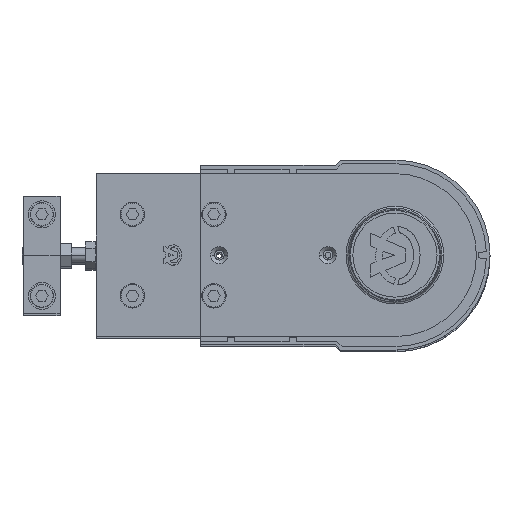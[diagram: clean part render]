
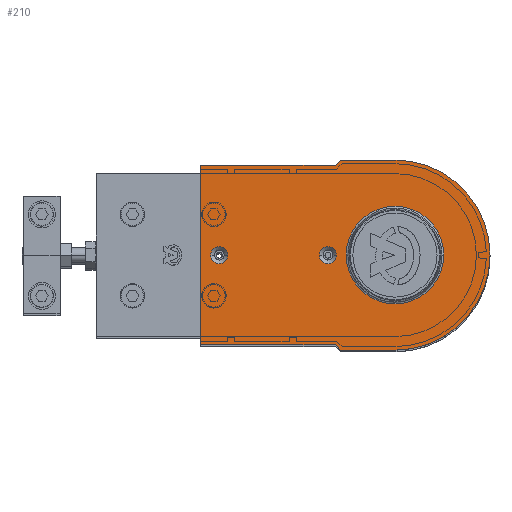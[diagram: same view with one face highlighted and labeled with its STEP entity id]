
A CAD part, top view. The second image highlights one B-rep face of the part: STEP entity #210.
In plain terms, the highlighted planar face has unit normal (0, 0, 1).
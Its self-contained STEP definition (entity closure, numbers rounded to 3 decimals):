
#210 = ADVANCED_FACE ( 'NONE', ( #2787, #10954, #479, #16009 ), #3434, .T. ) ;
#250 = CARTESIAN_POINT ( 'NONE',  ( 37., 0., 0. ) ) ;
#272 = AXIS2_PLACEMENT_3D ( 'NONE', #12017, #18780, #17198 ) ;
#479 = FACE_BOUND ( 'NONE', #1587, .T. ) ;
#483 = EDGE_CURVE ( 'NONE', #4652, #11498, #15740, .T. ) ;
#650 = AXIS2_PLACEMENT_3D ( 'NONE', #801, #12271, #2495 ) ;
#681 = EDGE_CURVE ( 'NONE', #16655, #18034, #20118, .T. ) ;
#801 = CARTESIAN_POINT ( 'NONE',  ( 0., 0., 0. ) ) ;
#1273 = CARTESIAN_POINT ( 'NONE',  ( 30., 52.5, 0. ) ) ;
#1370 = DIRECTION ( 'NONE',  ( 1., 0., 0. ) ) ;
#1437 = VERTEX_POINT ( 'NONE', #8778 ) ;
#1534 = CIRCLE ( 'NONE', #9365, 4.7 ) ;
#1566 = CARTESIAN_POINT ( 'NONE',  ( 107.5, -49.5, 0. ) ) ;
#1586 = CARTESIAN_POINT ( 'NONE',  ( 97., 0., 0. ) ) ;
#1587 = EDGE_LOOP ( 'NONE', ( #4937, #1981 ) ) ;
#1592 = VECTOR ( 'NONE', #2641, 1000. ) ;
#1751 = VERTEX_POINT ( 'NONE', #1566 ) ;
#1801 = DIRECTION ( 'NONE',  ( 1., 0., 0. ) ) ;
#1816 = VERTEX_POINT ( 'NONE', #4974 ) ;
#1981 = ORIENTED_EDGE ( 'NONE', *, *, #19530, .F. ) ;
#1991 = CARTESIAN_POINT ( 'NONE',  ( 33., -49.5, 0. ) ) ;
#2139 = LINE ( 'NONE', #11264, #4446 ) ;
#2165 = CIRCLE ( 'NONE', #17746, 4.7 ) ;
#2491 = DIRECTION ( 'NONE',  ( -1., 0., 0. ) ) ;
#2495 = DIRECTION ( 'NONE',  ( 1., 0., 0. ) ) ;
#2616 = EDGE_LOOP ( 'NONE', ( #16826, #12800 ) ) ;
#2641 = DIRECTION ( 'NONE',  ( 0., 1., 0. ) ) ;
#2761 = EDGE_CURVE ( 'NONE', #18034, #16655, #10351, .T. ) ;
#2787 = FACE_BOUND ( 'NONE', #3416, .T. ) ;
#3217 = CARTESIAN_POINT ( 'NONE',  ( 0., 0., 0. ) ) ;
#3416 = EDGE_LOOP ( 'NONE', ( #16852, #12238 ) ) ;
#3434 = PLANE ( 'NONE',  #9661 ) ;
#4446 = VECTOR ( 'NONE', #12843, 1000. ) ;
#4576 = DIRECTION ( 'NONE',  ( 1., 0., 0. ) ) ;
#4652 = VERTEX_POINT ( 'NONE', #7378 ) ;
#4937 = ORIENTED_EDGE ( 'NONE', *, *, #19110, .F. ) ;
#4974 = CARTESIAN_POINT ( 'NONE',  ( 33., 49.5, 0. ) ) ;
#5267 = LINE ( 'NONE', #6006, #14947 ) ;
#5295 = CARTESIAN_POINT ( 'NONE',  ( 97., 0., 0. ) ) ;
#5345 = EDGE_CURVE ( 'NONE', #1751, #7740, #11521, .T. ) ;
#6006 = CARTESIAN_POINT ( 'NONE',  ( 107.5, 49.5, 0. ) ) ;
#6261 = CARTESIAN_POINT ( 'NONE',  ( 33., 49.5, 0. ) ) ;
#6297 = EDGE_CURVE ( 'NONE', #16571, #19619, #13304, .T. ) ;
#6431 = CARTESIAN_POINT ( 'NONE',  ( 30., -52.5, 0. ) ) ;
#6874 = DIRECTION ( 'NONE',  ( 0., 0., 1. ) ) ;
#6907 = ORIENTED_EDGE ( 'NONE', *, *, #11801, .T. ) ;
#6987 = CARTESIAN_POINT ( 'NONE',  ( 107.5, -49.5, 0. ) ) ;
#7278 = CARTESIAN_POINT ( 'NONE',  ( 37., 0., 0. ) ) ;
#7378 = CARTESIAN_POINT ( 'NONE',  ( 0., 52.5, 0. ) ) ;
#7446 = EDGE_LOOP ( 'NONE', ( #15584, #18385, #14621, #9539, #9950, #6907, #9942, #20315 ) ) ;
#7522 = EDGE_CURVE ( 'NONE', #19619, #16571, #1534, .T. ) ;
#7740 = VERTEX_POINT ( 'NONE', #16214 ) ;
#8062 = DIRECTION ( 'NONE',  ( 1., 0., 0. ) ) ;
#8095 = DIRECTION ( 'NONE',  ( -0.707, 0.707, 0. ) ) ;
#8246 = DIRECTION ( 'NONE',  ( 0., 0., 1. ) ) ;
#8362 = DIRECTION ( 'NONE',  ( 0., 0., 1. ) ) ;
#8442 = DIRECTION ( 'NONE',  ( 1., 0., 0. ) ) ;
#8529 = LINE ( 'NONE', #6431, #16665 ) ;
#8649 = VECTOR ( 'NONE', #12035, 1000. ) ;
#8778 = CARTESIAN_POINT ( 'NONE',  ( 30., -52.5, 0. ) ) ;
#8851 = CARTESIAN_POINT ( 'NONE',  ( 0., -52.5, 0. ) ) ;
#9141 = DIRECTION ( 'NONE',  ( -1., 0., 0. ) ) ;
#9365 = AXIS2_PLACEMENT_3D ( 'NONE', #7278, #20299, #10552 ) ;
#9377 = EDGE_CURVE ( 'NONE', #13864, #4652, #20335, .T. ) ;
#9539 = ORIENTED_EDGE ( 'NONE', *, *, #9377, .T. ) ;
#9610 = CARTESIAN_POINT ( 'NONE',  ( 101.7, 0., 0. ) ) ;
#9661 = AXIS2_PLACEMENT_3D ( 'NONE', #3217, #8362, #1801 ) ;
#9942 = ORIENTED_EDGE ( 'NONE', *, *, #11865, .T. ) ;
#9950 = ORIENTED_EDGE ( 'NONE', *, *, #483, .T. ) ;
#10351 = CIRCLE ( 'NONE', #272, 26.933 ) ;
#10552 = DIRECTION ( 'NONE',  ( 1., 0., 0. ) ) ;
#10704 = LINE ( 'NONE', #6987, #8649 ) ;
#10954 = FACE_BOUND ( 'NONE', #2616, .T. ) ;
#11129 = DIRECTION ( 'NONE',  ( 0., 0., -1. ) ) ;
#11264 = CARTESIAN_POINT ( 'NONE',  ( 33., -49.5, 0. ) ) ;
#11498 = VERTEX_POINT ( 'NONE', #8851 ) ;
#11521 = LINE ( 'NONE', #19080, #1592 ) ;
#11801 = EDGE_CURVE ( 'NONE', #11498, #1437, #8529, .T. ) ;
#11857 = LINE ( 'NONE', #6261, #13901 ) ;
#11865 = EDGE_CURVE ( 'NONE', #1437, #16483, #2139, .T. ) ;
#12017 = CARTESIAN_POINT ( 'NONE',  ( 0., 0., 0. ) ) ;
#12035 = DIRECTION ( 'NONE',  ( 1., 0., 0. ) ) ;
#12238 = ORIENTED_EDGE ( 'NONE', *, *, #2761, .T. ) ;
#12266 = CARTESIAN_POINT ( 'NONE',  ( 30., 52.5, 0. ) ) ;
#12271 = DIRECTION ( 'NONE',  ( 0., 0., 1. ) ) ;
#12491 = AXIS2_PLACEMENT_3D ( 'NONE', #250, #8246, #8442 ) ;
#12800 = ORIENTED_EDGE ( 'NONE', *, *, #7522, .F. ) ;
#12843 = DIRECTION ( 'NONE',  ( 0.707, 0.707, 0. ) ) ;
#12855 = DIRECTION ( 'NONE',  ( 0., 0., 1. ) ) ;
#13304 = CIRCLE ( 'NONE', #12491, 4.7 ) ;
#13864 = VERTEX_POINT ( 'NONE', #1273 ) ;
#13901 = VECTOR ( 'NONE', #8095, 1000. ) ;
#14621 = ORIENTED_EDGE ( 'NONE', *, *, #18884, .T. ) ;
#14947 = VECTOR ( 'NONE', #9141, 1000. ) ;
#15070 = VERTEX_POINT ( 'NONE', #9610 ) ;
#15396 = CIRCLE ( 'NONE', #19414, 4.7 ) ;
#15584 = ORIENTED_EDGE ( 'NONE', *, *, #5345, .T. ) ;
#15740 = CIRCLE ( 'NONE', #650, 52.5 ) ;
#16009 = FACE_OUTER_BOUND ( 'NONE', #7446, .T. ) ;
#16214 = CARTESIAN_POINT ( 'NONE',  ( 107.5, 49.5, 0. ) ) ;
#16449 = CARTESIAN_POINT ( 'NONE',  ( 32.3, 0., 0. ) ) ;
#16483 = VERTEX_POINT ( 'NONE', #1991 ) ;
#16495 = EDGE_CURVE ( 'NONE', #16483, #1751, #10704, .T. ) ;
#16571 = VERTEX_POINT ( 'NONE', #16996 ) ;
#16655 = VERTEX_POINT ( 'NONE', #20294 ) ;
#16665 = VECTOR ( 'NONE', #8062, 1000. ) ;
#16826 = ORIENTED_EDGE ( 'NONE', *, *, #6297, .F. ) ;
#16852 = ORIENTED_EDGE ( 'NONE', *, *, #681, .T. ) ;
#16996 = CARTESIAN_POINT ( 'NONE',  ( 41.7, 0., 0. ) ) ;
#17159 = CARTESIAN_POINT ( 'NONE',  ( -26.933, 0., 0. ) ) ;
#17198 = DIRECTION ( 'NONE',  ( 1., 0., 0. ) ) ;
#17388 = CARTESIAN_POINT ( 'NONE',  ( 92.3, 0., 0. ) ) ;
#17746 = AXIS2_PLACEMENT_3D ( 'NONE', #5295, #6874, #18394 ) ;
#17963 = EDGE_CURVE ( 'NONE', #7740, #1816, #5267, .T. ) ;
#18034 = VERTEX_POINT ( 'NONE', #17159 ) ;
#18382 = AXIS2_PLACEMENT_3D ( 'NONE', #19367, #11129, #1370 ) ;
#18385 = ORIENTED_EDGE ( 'NONE', *, *, #17963, .T. ) ;
#18394 = DIRECTION ( 'NONE',  ( 1., 0., 0. ) ) ;
#18780 = DIRECTION ( 'NONE',  ( 0., 0., -1. ) ) ;
#18884 = EDGE_CURVE ( 'NONE', #1816, #13864, #11857, .T. ) ;
#19080 = CARTESIAN_POINT ( 'NONE',  ( 107.5, -49.5, 0. ) ) ;
#19110 = EDGE_CURVE ( 'NONE', #15070, #19327, #2165, .T. ) ;
#19327 = VERTEX_POINT ( 'NONE', #17388 ) ;
#19367 = CARTESIAN_POINT ( 'NONE',  ( 0., 0., 0. ) ) ;
#19414 = AXIS2_PLACEMENT_3D ( 'NONE', #1586, #12855, #4576 ) ;
#19530 = EDGE_CURVE ( 'NONE', #19327, #15070, #15396, .T. ) ;
#19562 = VECTOR ( 'NONE', #2491, 1000. ) ;
#19619 = VERTEX_POINT ( 'NONE', #16449 ) ;
#20118 = CIRCLE ( 'NONE', #18382, 26.933 ) ;
#20294 = CARTESIAN_POINT ( 'NONE',  ( 26.933, 0., 0. ) ) ;
#20299 = DIRECTION ( 'NONE',  ( 0., 0., 1. ) ) ;
#20315 = ORIENTED_EDGE ( 'NONE', *, *, #16495, .T. ) ;
#20335 = LINE ( 'NONE', #12266, #19562 ) ;
